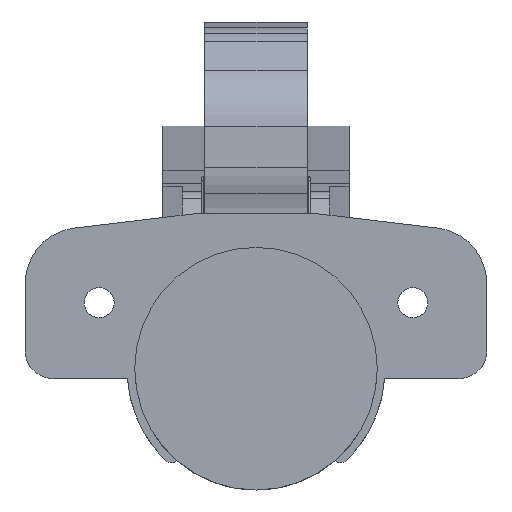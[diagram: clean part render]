
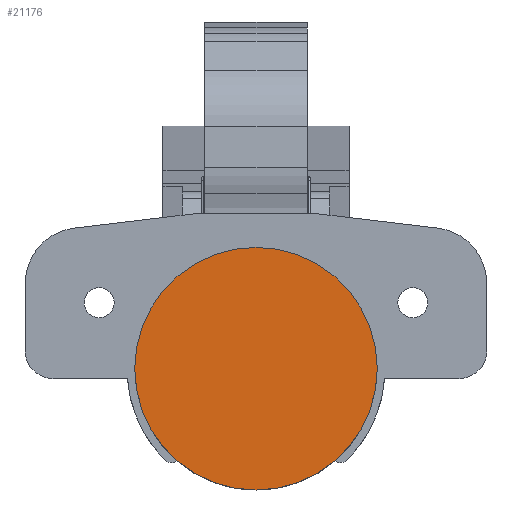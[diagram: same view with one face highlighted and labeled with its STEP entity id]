
A CAD part, top view. The second image highlights one B-rep face of the part: STEP entity #21176.
In plain terms, the highlighted planar face has unit normal (0, 0, 1).
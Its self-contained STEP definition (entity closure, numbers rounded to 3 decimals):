
#719 = AXIS2_PLACEMENT_3D ( 'NONE', #3935, #20144, #11275 ) ;
#2306 = CARTESIAN_POINT ( 'NONE',  ( 0., 5.722, 14.008 ) ) ;
#3625 = DIRECTION ( 'NONE',  ( 1., 0., 0. ) ) ;
#3758 = EDGE_LOOP ( 'NONE', ( #9611, #9370 ) ) ;
#3935 = CARTESIAN_POINT ( 'NONE',  ( 0., 5.722, 14.008 ) ) ;
#3979 = PLANE ( 'NONE',  #5364 ) ;
#4018 = CARTESIAN_POINT ( 'NONE',  ( 17.4, 5.722, 14.008 ) ) ;
#4159 = CIRCLE ( 'NONE', #719, 17.4 ) ;
#4831 = DIRECTION ( 'NONE',  ( 0., 0., 1. ) ) ;
#4932 = EDGE_CURVE ( 'NONE', #23672, #23540, #8294, .T. ) ;
#5364 = AXIS2_PLACEMENT_3D ( 'NONE', #2306, #16837, #3625 ) ;
#8294 = CIRCLE ( 'NONE', #11731, 17.4 ) ;
#9370 = ORIENTED_EDGE ( 'NONE', *, *, #19672, .T. ) ;
#9611 = ORIENTED_EDGE ( 'NONE', *, *, #4932, .T. ) ;
#10960 = FACE_OUTER_BOUND ( 'NONE', #3758, .T. ) ;
#11275 = DIRECTION ( 'NONE',  ( 1., 0., 0. ) ) ;
#11731 = AXIS2_PLACEMENT_3D ( 'NONE', #21287, #4831, #12160 ) ;
#12160 = DIRECTION ( 'NONE',  ( 1., 0., 0. ) ) ;
#16837 = DIRECTION ( 'NONE',  ( 0., 0., 1. ) ) ;
#18308 = CARTESIAN_POINT ( 'NONE',  ( -17.4, 5.722, 14.008 ) ) ;
#19672 = EDGE_CURVE ( 'NONE', #23540, #23672, #4159, .T. ) ;
#20144 = DIRECTION ( 'NONE',  ( 0., 0., 1. ) ) ;
#21176 = ADVANCED_FACE ( 'NONE', ( #10960 ), #3979, .T. ) ;
#21287 = CARTESIAN_POINT ( 'NONE',  ( 0., 5.722, 14.008 ) ) ;
#23540 = VERTEX_POINT ( 'NONE', #18308 ) ;
#23672 = VERTEX_POINT ( 'NONE', #4018 ) ;
